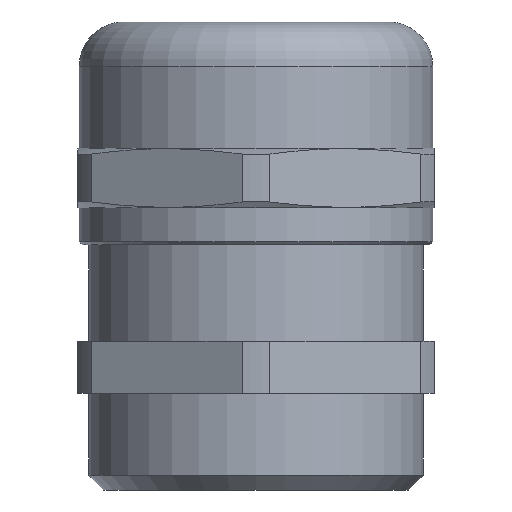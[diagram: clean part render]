
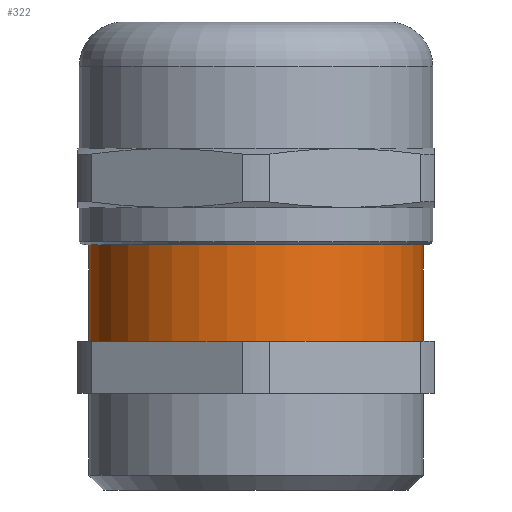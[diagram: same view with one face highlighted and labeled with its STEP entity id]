
A CAD part, front view. The second image highlights one B-rep face of the part: STEP entity #322.
In plain terms, the highlighted cylindrical face has radius 11.25 mm (diameter 22.5 mm), a partial arc.
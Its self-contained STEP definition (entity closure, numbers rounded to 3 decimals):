
#304 = EDGE_CURVE ( 'NONE', #1002, #1005, #1589, .T. ) ;
#307 = EDGE_CURVE ( 'NONE', #1001, #877, #1581, .T. ) ;
#308 = ORIENTED_EDGE ( 'NONE', *, *, #997, .T. ) ;
#321 = EDGE_LOOP ( 'NONE', ( #374, #516, #308, #377 ) ) ;
#322 = ADVANCED_FACE ( 'NONE', ( #1753 ), #1752, .T. ) ;
#374 = ORIENTED_EDGE ( 'NONE', *, *, #1006, .F. ) ;
#377 = ORIENTED_EDGE ( 'NONE', *, *, #304, .F. ) ;
#516 = ORIENTED_EDGE ( 'NONE', *, *, #307, .T. ) ;
#877 = VERTEX_POINT ( 'NONE', #2504 ) ;
#997 = EDGE_CURVE ( 'NONE', #877, #1005, #2422, .T. ) ;
#1001 = VERTEX_POINT ( 'NONE', #2407 ) ;
#1002 = VERTEX_POINT ( 'NONE', #2406 ) ;
#1005 = VERTEX_POINT ( 'NONE', #2113 ) ;
#1006 = EDGE_CURVE ( 'NONE', #1001, #1002, #2705, .T. ) ;
#1581 = CIRCLE ( 'NONE', #1779, 11.25 ) ;
#1586 = DIRECTION ( 'NONE',  ( -1., 0., 0. ) ) ;
#1587 = DIRECTION ( 'NONE',  ( 0., 0., -1. ) ) ;
#1588 = AXIS2_PLACEMENT_3D ( 'NONE', #1594, #1587, #1586 ) ;
#1589 = CIRCLE ( 'NONE', #1588, 11.25 ) ;
#1594 = CARTESIAN_POINT ( 'NONE',  ( 0., 0., 10. ) ) ;
#1747 = DIRECTION ( 'NONE',  ( -1., 0., 0. ) ) ;
#1748 = DIRECTION ( 'NONE',  ( 0., 0., -1. ) ) ;
#1749 = CARTESIAN_POINT ( 'NONE',  ( 0., 0., 0. ) ) ;
#1750 = AXIS2_PLACEMENT_3D ( 'NONE', #1749, #1748, #1747 ) ;
#1752 = CYLINDRICAL_SURFACE ( 'NONE', #1750, 11.25 ) ;
#1753 = FACE_OUTER_BOUND ( 'NONE', #321, .T. ) ;
#1776 = DIRECTION ( 'NONE',  ( -1., 0., 0. ) ) ;
#1777 = DIRECTION ( 'NONE',  ( 0., 0., -1. ) ) ;
#1778 = CARTESIAN_POINT ( 'NONE',  ( 0., 0., 16.5 ) ) ;
#1779 = AXIS2_PLACEMENT_3D ( 'NONE', #1778, #1777, #1776 ) ;
#2113 = CARTESIAN_POINT ( 'NONE',  ( -11.25, 0., 10. ) ) ;
#2406 = CARTESIAN_POINT ( 'NONE',  ( 11.25, 0., 10. ) ) ;
#2407 = CARTESIAN_POINT ( 'NONE',  ( 11.25, 0., 16.5 ) ) ;
#2419 = DIRECTION ( 'NONE',  ( 0., 0., -1. ) ) ;
#2420 = VECTOR ( 'NONE', #2419, 1000. ) ;
#2421 = CARTESIAN_POINT ( 'NONE',  ( -11.25, 0., 0. ) ) ;
#2422 = LINE ( 'NONE', #2421, #2420 ) ;
#2504 = CARTESIAN_POINT ( 'NONE',  ( -11.25, 0., 16.5 ) ) ;
#2705 = LINE ( 'NONE', #2784, #2758 ) ;
#2758 = VECTOR ( 'NONE', #2783, 1000. ) ;
#2783 = DIRECTION ( 'NONE',  ( 0., 0., -1. ) ) ;
#2784 = CARTESIAN_POINT ( 'NONE',  ( 11.25, 0., 0. ) ) ;
